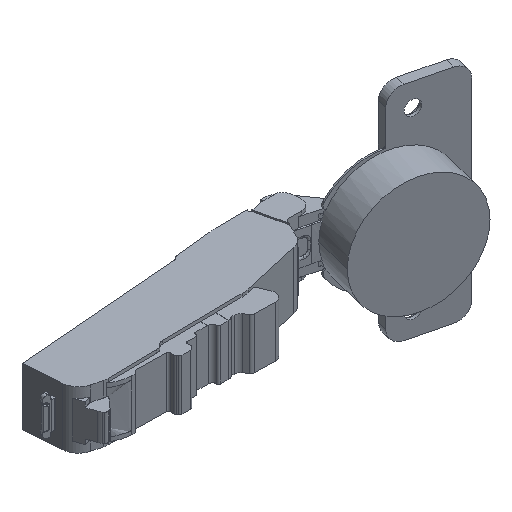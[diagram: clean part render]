
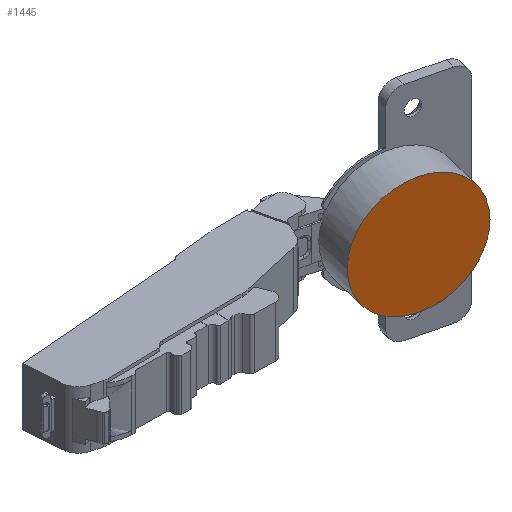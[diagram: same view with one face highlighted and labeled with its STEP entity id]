
A CAD part, isometric view. The second image highlights one B-rep face of the part: STEP entity #1445.
In plain terms, the highlighted planar face has unit normal (-0.242, -0.97, 0).
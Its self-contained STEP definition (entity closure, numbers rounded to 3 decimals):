
#610 = ORIENTED_EDGE ( 'NONE', *, *, #7992, .T. ) ;
#1245 = CIRCLE ( 'NONE', #5714, 17.4 ) ;
#1445 = ADVANCED_FACE ( 'NONE', ( #6378 ), #6720, .T. ) ;
#2047 = DIRECTION ( 'NONE',  ( 0.97, -0.242, 0. ) ) ;
#3110 = CARTESIAN_POINT ( 'NONE',  ( 18.208, 7.984, 0.967 ) ) ;
#3722 = EDGE_LOOP ( 'NONE', ( #610, #7924 ) ) ;
#4181 = CARTESIAN_POINT ( 'NONE',  ( 18.208, 7.984, 0.967 ) ) ;
#4241 = DIRECTION ( 'NONE',  ( 0.97, -0.242, 0. ) ) ;
#4536 = CARTESIAN_POINT ( 'NONE',  ( 35.092, 3.775, 0.967 ) ) ;
#4544 = CARTESIAN_POINT ( 'NONE',  ( 18.208, 7.984, 0.967 ) ) ;
#4982 = VERTEX_POINT ( 'NONE', #4536 ) ;
#5714 = AXIS2_PLACEMENT_3D ( 'NONE', #4181, #6102, #4241 ) ;
#5840 = DIRECTION ( 'NONE',  ( 0.97, -0.242, 0. ) ) ;
#6102 = DIRECTION ( 'NONE',  ( -0.242, -0.97, 0. ) ) ;
#6360 = DIRECTION ( 'NONE',  ( -0.242, -0.97, 0. ) ) ;
#6378 = FACE_OUTER_BOUND ( 'NONE', #3722, .T. ) ;
#6720 = PLANE ( 'NONE',  #11148 ) ;
#6814 = CIRCLE ( 'NONE', #11262, 17.4 ) ;
#7755 = CARTESIAN_POINT ( 'NONE',  ( 1.325, 12.193, 0.967 ) ) ;
#7788 = EDGE_CURVE ( 'NONE', #9416, #4982, #6814, .T. ) ;
#7924 = ORIENTED_EDGE ( 'NONE', *, *, #7788, .T. ) ;
#7992 = EDGE_CURVE ( 'NONE', #4982, #9416, #1245, .T. ) ;
#9269 = DIRECTION ( 'NONE',  ( -0.242, -0.97, 0. ) ) ;
#9416 = VERTEX_POINT ( 'NONE', #7755 ) ;
#11148 = AXIS2_PLACEMENT_3D ( 'NONE', #3110, #9269, #5840 ) ;
#11262 = AXIS2_PLACEMENT_3D ( 'NONE', #4544, #6360, #2047 ) ;
